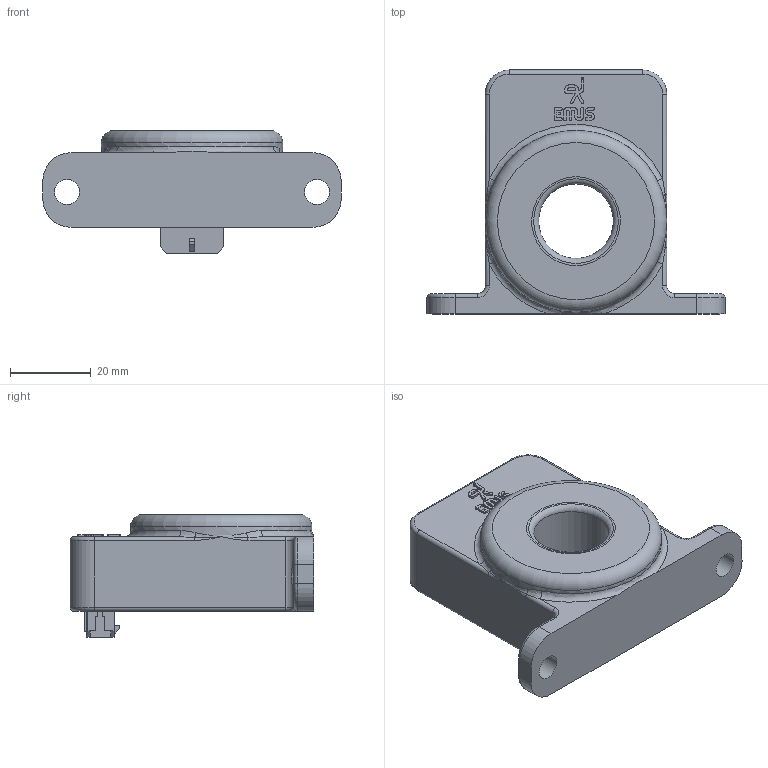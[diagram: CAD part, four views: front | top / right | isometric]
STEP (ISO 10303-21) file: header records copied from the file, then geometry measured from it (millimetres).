
FILE_DESCRIPTION(/* description */ (''),/* implementation_level */ '2;1');
FILE_NAME(/* name */ 'C:/Users/Justinas/Desktop/CS020B_for_Clients v2.step',/* time_stamp */ '2021-10-18T16:55:16+03:00',/* author */ (''),/* organization */ (''),/* preprocessor_version */ 'ST-DEVELOPER v18.1',/* originating_system */ 'Autodesk Translation Framework v10.10.0.1391',/* authorisation */ '');
FILE_SCHEMA (('AUTOMOTIVE_DESIGN { 1 0 10303 214 3 1 1 }'));
Products named in the file (5): CS020B_for_Clients; P2; 43045-0812; Open CASCADE STEP translator 6.8 2.7.1.1; Open CASCADE STEP translator 6.8 2.7.1.2
Assembly tree (4 placements, depth 4):
  CS020B_for_Clients
    P2
      43045-0812
        Open CASCADE STEP translator 6.8 2.7.1.1
        Open CASCADE STEP translator 6.8 2.7.1.2
Bounding box: 74 x 60.5 x 30.5 mm (x, y, z)
Volume: 26021 mm3; surface area: 24050.4 mm2
Topology: 3 solids, 5 shells, 1163 faces, 3212 edges, 2076 vertices
Faces by surface type: plane 636, cylinder 283, bspline 172, torus 64, cone 6, sphere 2
Full cylindrical faces by diameter (mm): 0.86 x2, 3 x4, 6.2 x2, 18.5 x1, 20.5 x1, 20.7 x1, 21.8 x1, 45 x1
Entity records: 45629 total; most frequent: CARTESIAN_POINT 16670, ORIENTED_EDGE 6384, DIRECTION 5541, EDGE_CURVE 3192, LINE 2095, VECTOR 2095, VERTEX_POINT 2076, AXIS2_PLACEMENT_3D 1723
